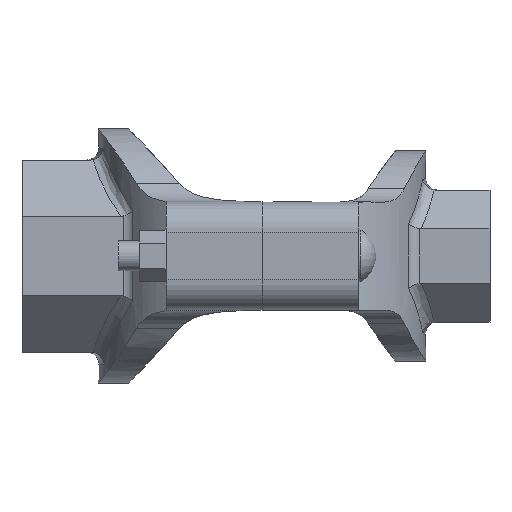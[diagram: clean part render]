
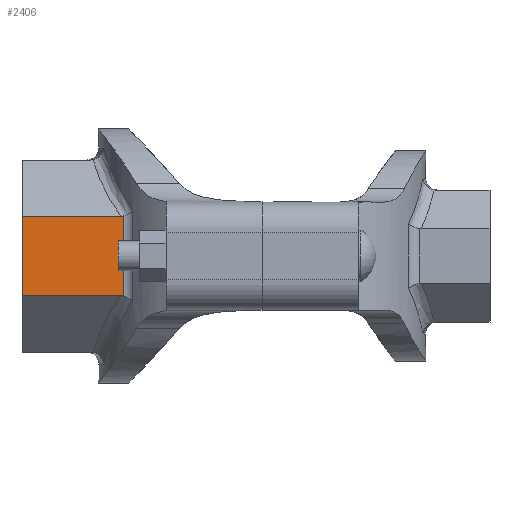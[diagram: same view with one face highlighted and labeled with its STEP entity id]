
A CAD part, left-side view. The second image highlights one B-rep face of the part: STEP entity #2406.
In plain terms, the highlighted planar face has unit normal (-1, 0, 0) as drawn and (1, 0, 0) by its records, which use the part's own axes.
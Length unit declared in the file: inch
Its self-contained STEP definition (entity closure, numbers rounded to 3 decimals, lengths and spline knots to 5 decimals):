
#53=B_SPLINE_CURVE_WITH_KNOTS('',3,(#3566,#3567,#3568,#3569),
 .UNSPECIFIED.,.F.,.F.,(4,4),(0.,0.1439),.UNSPECIFIED.);
#56=B_SPLINE_CURVE_WITH_KNOTS('',3,(#3617,#3618,#3619,#3620,#3621,#3622,
#3623),.UNSPECIFIED.,.F.,.F.,(4,3,4),(0.74084,0.79223,
0.91025),.UNSPECIFIED.);
#242=FACE_OUTER_BOUND('',#381,.T.);
#381=EDGE_LOOP('',(#1772,#1773,#1774,#1775,#1776,#1777));
#482=LINE('',#3658,#664);
#493=LINE('',#3808,#675);
#552=LINE('',#4268,#734);
#553=LINE('',#4270,#735);
#664=VECTOR('',#2852,0.3937);
#675=VECTOR('',#2887,0.3937);
#734=VECTOR('',#3074,0.3937);
#735=VECTOR('',#3077,0.3937);
#937=VERTEX_POINT('',#3563);
#938=VERTEX_POINT('',#3565);
#942=VERTEX_POINT('',#3605);
#943=VERTEX_POINT('',#3616);
#959=VERTEX_POINT('',#3807);
#1030=VERTEX_POINT('',#4266);
#1175=EDGE_CURVE('',#937,#938,#53,.T.);
#1180=EDGE_CURVE('',#942,#943,#56,.T.);
#1183=EDGE_CURVE('',#942,#938,#482,.T.);
#1207=EDGE_CURVE('',#943,#959,#493,.T.);
#1308=EDGE_CURVE('',#937,#1030,#552,.T.);
#1309=EDGE_CURVE('',#959,#1030,#553,.T.);
#1772=ORIENTED_EDGE('',*,*,#1183,.T.);
#1773=ORIENTED_EDGE('',*,*,#1175,.F.);
#1774=ORIENTED_EDGE('',*,*,#1308,.T.);
#1775=ORIENTED_EDGE('',*,*,#1309,.F.);
#1776=ORIENTED_EDGE('',*,*,#1207,.F.);
#1777=ORIENTED_EDGE('',*,*,#1180,.F.);
#2181=PLANE('',#2646);
#2406=ADVANCED_FACE('',(#242),#2181,.T.);
#2646=AXIS2_PLACEMENT_3D('',#4269,#3075,#3076);
#2852=DIRECTION('',(0.,0.,-1.));
#2887=DIRECTION('',(0.,1.,0.));
#3074=DIRECTION('',(0.,1.,0.));
#3075=DIRECTION('center_axis',(1.,0.,0.));
#3076=DIRECTION('ref_axis',(0.,0.,-1.));
#3077=DIRECTION('',(0.,0.,-1.));
#3563=CARTESIAN_POINT('',(2.,2.94232,-0.82843));
#3565=CARTESIAN_POINT('',(2.,2.88671,-0.83608));
#3566=CARTESIAN_POINT('Ctrl Pts',(2.,2.94232,-0.82843));
#3567=CARTESIAN_POINT('Ctrl Pts',(2.,2.92344,-0.82843));
#3568=CARTESIAN_POINT('Ctrl Pts',(2.,2.90469,-0.8308));
#3569=CARTESIAN_POINT('Ctrl Pts',(2.,2.88671,-0.83608));
#3605=CARTESIAN_POINT('',(2.,2.88671,0.83608));
#3616=CARTESIAN_POINT('',(2.,2.94232,0.82843));
#3617=CARTESIAN_POINT('Ctrl Pts',(2.00001,2.88669,0.83611));
#3618=CARTESIAN_POINT('Ctrl Pts',(2.00001,2.89215,0.83451));
#3619=CARTESIAN_POINT('Ctrl Pts',(2.00001,2.89768,0.83317));
#3620=CARTESIAN_POINT('Ctrl Pts',(2.00001,2.90328,0.83208));
#3621=CARTESIAN_POINT('Ctrl Pts',(2.,2.91613,0.82958));
#3622=CARTESIAN_POINT('Ctrl Pts',(1.99999,2.92921,0.82843));
#3623=CARTESIAN_POINT('Ctrl Pts',(1.99999,2.94231,0.82843));
#3658=CARTESIAN_POINT('',(2.,2.88671,0.));
#3807=CARTESIAN_POINT('',(2.,5.,0.82843));
#3808=CARTESIAN_POINT('',(2.,0.,0.82843));
#4266=CARTESIAN_POINT('',(2.,5.,-0.82843));
#4268=CARTESIAN_POINT('',(2.,0.,-0.82843));
#4269=CARTESIAN_POINT('Origin',(2.,0.,0.82843));
#4270=CARTESIAN_POINT('',(2.,5.,-0.82843));
